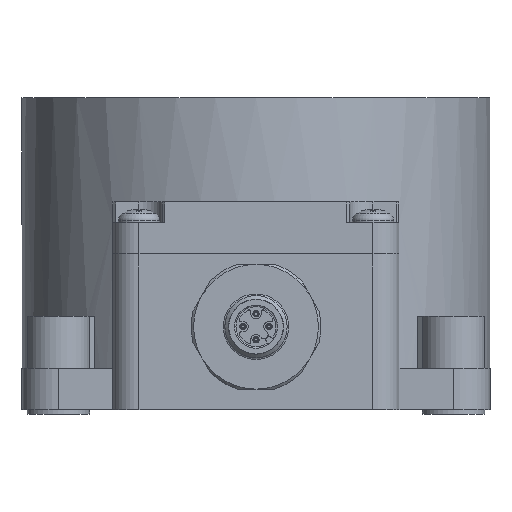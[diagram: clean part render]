
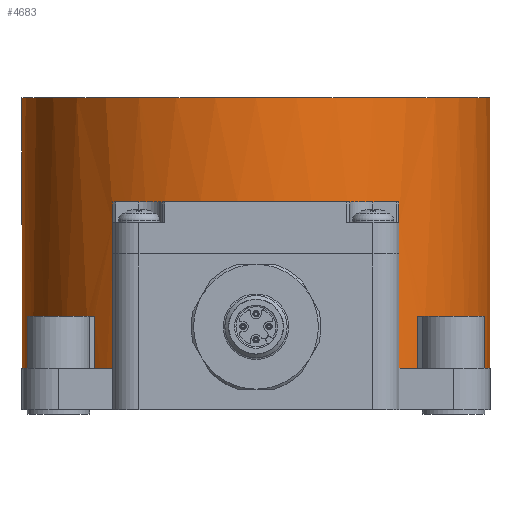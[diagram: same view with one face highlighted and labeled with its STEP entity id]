
A CAD part, front view. The second image highlights one B-rep face of the part: STEP entity #4683.
In plain terms, the highlighted cylindrical face has radius 45 mm (diameter 90 mm), a full revolution.
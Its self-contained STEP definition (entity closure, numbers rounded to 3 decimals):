
#3056=CARTESIAN_POINT('',(45.0,0.,52.0));
#3057=VERTEX_POINT('',#3056);
#3058=CARTESIAN_POINT('',(0.0,0.0,52.0));
#3059=DIRECTION('',(0.0,0.0,-1.0));
#3060=DIRECTION('',(-1.0,0.0,0.0));
#3061=AXIS2_PLACEMENT_3D('',#3058,#3059,#3060);
#3062=CIRCLE('',#3061,45.0);
#3063=EDGE_CURVE('',#3057,#3057,#3062,.T.);
#3277=CARTESIAN_POINT('',(45.0,0.,0.0));
#3278=VERTEX_POINT('',#3277);
#3390=CARTESIAN_POINT('',(-45.,0.,0.0));
#3391=VERTEX_POINT('',#3390);
#3447=CARTESIAN_POINT('',(0.,45.,0.0));
#3448=VERTEX_POINT('',#3447);
#3504=CARTESIAN_POINT('',(-27.5,-35.62,22.0));
#3505=VERTEX_POINT('',#3504);
#3512=CARTESIAN_POINT('',(-27.5,-35.62,0.0));
#3513=VERTEX_POINT('',#3512);
#3514=CARTESIAN_POINT('',(-27.5,-35.62,0.0));
#3515=DIRECTION('',(0.0,0.0,1.0));
#3516=VECTOR('',#3515,22.0);
#3517=LINE('',#3514,#3516);
#3518=EDGE_CURVE('',#3513,#3505,#3517,.T.);
#3713=CARTESIAN_POINT('',(27.5,-35.62,0.0));
#3714=VERTEX_POINT('',#3713);
#3721=CARTESIAN_POINT('',(27.5,-35.62,22.0));
#3722=VERTEX_POINT('',#3721);
#3723=CARTESIAN_POINT('',(27.5,-35.62,22.0));
#3724=DIRECTION('',(0.0,0.0,-1.0));
#3725=VECTOR('',#3724,22.0);
#3726=LINE('',#3723,#3725);
#3727=EDGE_CURVE('',#3722,#3714,#3726,.T.);
#3745=CARTESIAN_POINT('',(32.519,-31.105,0.0));
#3746=VERTEX_POINT('',#3745);
#3764=CARTESIAN_POINT('',(31.105,-32.519,0.0));
#3765=VERTEX_POINT('',#3764);
#3772=CARTESIAN_POINT('',(0.0,0.0,0.0));
#3773=DIRECTION('',(0.0,0.0,-1.0));
#3774=DIRECTION('',(-1.0,0.0,0.0));
#3775=AXIS2_PLACEMENT_3D('',#3772,#3773,#3774);
#3776=CIRCLE('',#3775,45.0);
#3777=EDGE_CURVE('',#3765,#3714,#3776,.T.);
#3783=CARTESIAN_POINT('',(0.0,0.0,0.0));
#3784=DIRECTION('',(0.0,0.0,-1.0));
#3785=DIRECTION('',(-1.0,0.0,0.0));
#3786=AXIS2_PLACEMENT_3D('',#3783,#3784,#3785);
#3787=CIRCLE('',#3786,45.0);
#3788=EDGE_CURVE('',#3278,#3746,#3787,.T.);
#3798=CARTESIAN_POINT('',(-32.519,31.105,0.0));
#3799=VERTEX_POINT('',#3798);
#3817=CARTESIAN_POINT('',(-31.105,32.519,0.0));
#3818=VERTEX_POINT('',#3817);
#3825=CARTESIAN_POINT('',(0.0,0.0,0.0));
#3826=DIRECTION('',(0.0,0.0,-1.0));
#3827=DIRECTION('',(-1.0,0.0,0.0));
#3828=AXIS2_PLACEMENT_3D('',#3825,#3826,#3827);
#3829=CIRCLE('',#3828,45.0);
#3830=EDGE_CURVE('',#3818,#3448,#3829,.T.);
#3835=CARTESIAN_POINT('',(0.0,0.0,0.0));
#3836=DIRECTION('',(0.0,0.0,-1.0));
#3837=DIRECTION('',(-1.0,0.0,0.0));
#3838=AXIS2_PLACEMENT_3D('',#3835,#3836,#3837);
#3839=CIRCLE('',#3838,45.0);
#3840=EDGE_CURVE('',#3391,#3799,#3839,.T.);
#3850=CARTESIAN_POINT('',(31.105,32.519,0.0));
#3851=VERTEX_POINT('',#3850);
#3869=CARTESIAN_POINT('',(32.519,31.105,0.0));
#3870=VERTEX_POINT('',#3869);
#3877=CARTESIAN_POINT('',(0.0,0.0,0.0));
#3878=DIRECTION('',(0.0,0.0,-1.0));
#3879=DIRECTION('',(-1.0,0.0,0.0));
#3880=AXIS2_PLACEMENT_3D('',#3877,#3878,#3879);
#3881=CIRCLE('',#3880,45.0);
#3882=EDGE_CURVE('',#3870,#3278,#3881,.T.);
#3887=CARTESIAN_POINT('',(0.0,0.0,0.0));
#3888=DIRECTION('',(0.0,0.0,-1.0));
#3889=DIRECTION('',(-1.0,0.0,0.0));
#3890=AXIS2_PLACEMENT_3D('',#3887,#3888,#3889);
#3891=CIRCLE('',#3890,45.0);
#3892=EDGE_CURVE('',#3448,#3851,#3891,.T.);
#3902=CARTESIAN_POINT('',(-31.105,-32.519,0.0));
#3903=VERTEX_POINT('',#3902);
#3921=CARTESIAN_POINT('',(-32.519,-31.105,0.0));
#3922=VERTEX_POINT('',#3921);
#3929=CARTESIAN_POINT('',(0.0,0.0,0.0));
#3930=DIRECTION('',(0.0,0.0,-1.0));
#3931=DIRECTION('',(-1.0,0.0,0.0));
#3932=AXIS2_PLACEMENT_3D('',#3929,#3930,#3931);
#3933=CIRCLE('',#3932,45.0);
#3934=EDGE_CURVE('',#3922,#3391,#3933,.T.);
#3940=CARTESIAN_POINT('',(0.0,0.0,0.0));
#3941=DIRECTION('',(0.0,0.0,-1.0));
#3942=DIRECTION('',(-1.0,0.0,0.0));
#3943=AXIS2_PLACEMENT_3D('',#3940,#3941,#3942);
#3944=CIRCLE('',#3943,45.0);
#3945=EDGE_CURVE('',#3513,#3903,#3944,.T.);
#3955=CARTESIAN_POINT('',(31.105,-32.519,10.0));
#3956=VERTEX_POINT('',#3955);
#3957=CARTESIAN_POINT('',(32.519,-31.105,10.0));
#3958=VERTEX_POINT('',#3957);
#3959=CARTESIAN_POINT('',(0.0,0.0,10.0));
#3960=DIRECTION('',(0.0,0.0,1.0));
#3961=DIRECTION('',(-1.0,0.0,0.0));
#3962=AXIS2_PLACEMENT_3D('',#3959,#3960,#3961);
#3963=CIRCLE('',#3962,45.0);
#3964=EDGE_CURVE('',#3956,#3958,#3963,.T.);
#4009=CARTESIAN_POINT('',(31.105,-32.519,0.0));
#4010=DIRECTION('',(0.0,0.0,1.0));
#4011=VECTOR('',#4010,10.0);
#4012=LINE('',#4009,#4011);
#4013=EDGE_CURVE('',#3765,#3956,#4012,.T.);
#4050=CARTESIAN_POINT('',(32.519,-31.105,10.0));
#4051=DIRECTION('',(0.0,0.0,-1.0));
#4052=VECTOR('',#4051,10.0);
#4053=LINE('',#4050,#4052);
#4054=EDGE_CURVE('',#3958,#3746,#4053,.T.);
#4075=CARTESIAN_POINT('',(-32.519,31.105,10.0));
#4076=VERTEX_POINT('',#4075);
#4083=CARTESIAN_POINT('',(-31.105,32.519,10.0));
#4084=VERTEX_POINT('',#4083);
#4085=CARTESIAN_POINT('',(0.0,0.0,10.0));
#4086=DIRECTION('',(0.0,0.0,1.0));
#4087=DIRECTION('',(-1.0,0.0,0.0));
#4088=AXIS2_PLACEMENT_3D('',#4085,#4086,#4087);
#4089=CIRCLE('',#4088,45.0);
#4090=EDGE_CURVE('',#4084,#4076,#4089,.T.);
#4125=CARTESIAN_POINT('',(-32.519,31.105,10.0));
#4126=DIRECTION('',(0.0,0.0,-1.0));
#4127=VECTOR('',#4126,10.0);
#4128=LINE('',#4125,#4127);
#4129=EDGE_CURVE('',#4076,#3799,#4128,.T.);
#4140=CARTESIAN_POINT('',(-31.105,32.519,0.0));
#4141=DIRECTION('',(0.0,0.0,1.0));
#4142=VECTOR('',#4141,10.0);
#4143=LINE('',#4140,#4142);
#4144=EDGE_CURVE('',#3818,#4084,#4143,.T.);
#4184=CARTESIAN_POINT('',(31.105,32.519,10.0));
#4185=VERTEX_POINT('',#4184);
#4192=CARTESIAN_POINT('',(32.519,31.105,10.0));
#4193=VERTEX_POINT('',#4192);
#4194=CARTESIAN_POINT('',(0.0,0.0,10.0));
#4195=DIRECTION('',(0.0,0.0,1.0));
#4196=DIRECTION('',(-1.0,0.0,0.0));
#4197=AXIS2_PLACEMENT_3D('',#4194,#4195,#4196);
#4198=CIRCLE('',#4197,45.0);
#4199=EDGE_CURVE('',#4193,#4185,#4198,.T.);
#4234=CARTESIAN_POINT('',(31.105,32.519,10.0));
#4235=DIRECTION('',(0.0,0.0,-1.0));
#4236=VECTOR('',#4235,10.0);
#4237=LINE('',#4234,#4236);
#4238=EDGE_CURVE('',#4185,#3851,#4237,.T.);
#4249=CARTESIAN_POINT('',(32.519,31.105,0.0));
#4250=DIRECTION('',(0.0,0.0,1.0));
#4251=VECTOR('',#4250,10.0);
#4252=LINE('',#4249,#4251);
#4253=EDGE_CURVE('',#3870,#4193,#4252,.T.);
#4282=CARTESIAN_POINT('',(-32.519,-31.105,10.0));
#4283=VERTEX_POINT('',#4282);
#4284=CARTESIAN_POINT('',(-31.105,-32.519,10.0));
#4285=VERTEX_POINT('',#4284);
#4286=CARTESIAN_POINT('',(0.0,0.0,10.0));
#4287=DIRECTION('',(0.0,0.0,1.0));
#4288=DIRECTION('',(-1.0,0.0,0.0));
#4289=AXIS2_PLACEMENT_3D('',#4286,#4287,#4288);
#4290=CIRCLE('',#4289,45.0);
#4291=EDGE_CURVE('',#4283,#4285,#4290,.T.);
#4336=CARTESIAN_POINT('',(-32.519,-31.105,0.0));
#4337=DIRECTION('',(0.0,0.0,1.0));
#4338=VECTOR('',#4337,10.0);
#4339=LINE('',#4336,#4338);
#4340=EDGE_CURVE('',#3922,#4283,#4339,.T.);
#4377=CARTESIAN_POINT('',(-31.105,-32.519,10.0));
#4378=DIRECTION('',(0.0,0.0,-1.0));
#4379=VECTOR('',#4378,10.0);
#4380=LINE('',#4377,#4379);
#4381=EDGE_CURVE('',#4285,#3903,#4380,.T.);
#4594=CARTESIAN_POINT('',(0.0,0.0,0.0));
#4595=DIRECTION('',(0.0,0.0,1.0));
#4596=DIRECTION('',(-1.0,0.0,0.0));
#4597=AXIS2_PLACEMENT_3D('',#4594,#4595,#4596);
#4598=CYLINDRICAL_SURFACE('',#4597,45.0);
#4599=ORIENTED_EDGE('',*,*,#3063,.T.);
#4600=EDGE_LOOP('',(#4599));
#4601=FACE_OUTER_BOUND('',#4600,.T.);
#4602=CARTESIAN_POINT('',(-27.5,-35.62,28.0));
#4603=VERTEX_POINT('',#4602);
#4604=CARTESIAN_POINT('',(-27.5,-35.62,22.0));
#4605=DIRECTION('',(0.0,0.0,1.0));
#4606=VECTOR('',#4605,6.0);
#4607=LINE('',#4604,#4606);
#4608=EDGE_CURVE('',#3505,#4603,#4607,.T.);
#4609=ORIENTED_EDGE('',*,*,#4608,.T.);
#4610=CARTESIAN_POINT('',(-17.541,-41.441,28.0));
#4611=VERTEX_POINT('',#4610);
#4612=CARTESIAN_POINT('',(0.0,0.0,28.0));
#4613=DIRECTION('',(0.0,0.0,1.0));
#4614=DIRECTION('',(-1.0,0.0,0.0));
#4615=AXIS2_PLACEMENT_3D('',#4612,#4613,#4614);
#4616=CIRCLE('',#4615,45.0);
#4617=EDGE_CURVE('',#4603,#4611,#4616,.T.);
#4618=ORIENTED_EDGE('',*,*,#4617,.T.);
#4619=CARTESIAN_POINT('',(-17.541,-41.441,32.));
#4620=VERTEX_POINT('',#4619);
#4621=CARTESIAN_POINT('',(-17.541,-41.441,28.0));
#4622=DIRECTION('',(0.0,0.0,1.0));
#4623=VECTOR('',#4622,4.);
#4624=LINE('',#4621,#4623);
#4625=EDGE_CURVE('',#4611,#4620,#4624,.T.);
#4626=ORIENTED_EDGE('',*,*,#4625,.T.);
#4627=CARTESIAN_POINT('',(17.541,-41.441,32.));
#4628=VERTEX_POINT('',#4627);
#4629=CARTESIAN_POINT('',(0.0,0.0,32.));
#4630=DIRECTION('',(0.0,0.0,1.0));
#4631=DIRECTION('',(-1.0,0.0,0.0));
#4632=AXIS2_PLACEMENT_3D('',#4629,#4630,#4631);
#4633=CIRCLE('',#4632,45.0);
#4634=EDGE_CURVE('',#4620,#4628,#4633,.T.);
#4635=ORIENTED_EDGE('',*,*,#4634,.T.);
#4636=CARTESIAN_POINT('',(17.541,-41.441,28.0));
#4637=VERTEX_POINT('',#4636);
#4638=CARTESIAN_POINT('',(17.541,-41.441,32.));
#4639=DIRECTION('',(0.0,0.0,-1.0));
#4640=VECTOR('',#4639,4.);
#4641=LINE('',#4638,#4640);
#4642=EDGE_CURVE('',#4628,#4637,#4641,.T.);
#4643=ORIENTED_EDGE('',*,*,#4642,.T.);
#4644=CARTESIAN_POINT('',(27.5,-35.62,28.0));
#4645=VERTEX_POINT('',#4644);
#4646=CARTESIAN_POINT('',(0.0,0.0,28.0));
#4647=DIRECTION('',(0.0,0.0,1.0));
#4648=DIRECTION('',(-1.0,0.0,0.0));
#4649=AXIS2_PLACEMENT_3D('',#4646,#4647,#4648);
#4650=CIRCLE('',#4649,45.0);
#4651=EDGE_CURVE('',#4637,#4645,#4650,.T.);
#4652=ORIENTED_EDGE('',*,*,#4651,.T.);
#4653=CARTESIAN_POINT('',(27.5,-35.62,28.0));
#4654=DIRECTION('',(0.0,0.0,-1.0));
#4655=VECTOR('',#4654,6.0);
#4656=LINE('',#4653,#4655);
#4657=EDGE_CURVE('',#4645,#3722,#4656,.T.);
#4658=ORIENTED_EDGE('',*,*,#4657,.T.);
#4659=ORIENTED_EDGE('',*,*,#3727,.T.);
#4660=ORIENTED_EDGE('',*,*,#3777,.F.);
#4661=ORIENTED_EDGE('',*,*,#4013,.T.);
#4662=ORIENTED_EDGE('',*,*,#3964,.T.);
#4663=ORIENTED_EDGE('',*,*,#4054,.T.);
#4664=ORIENTED_EDGE('',*,*,#3788,.F.);
#4665=ORIENTED_EDGE('',*,*,#3882,.F.);
#4666=ORIENTED_EDGE('',*,*,#4253,.T.);
#4667=ORIENTED_EDGE('',*,*,#4199,.T.);
#4668=ORIENTED_EDGE('',*,*,#4238,.T.);
#4669=ORIENTED_EDGE('',*,*,#3892,.F.);
#4670=ORIENTED_EDGE('',*,*,#3830,.F.);
#4671=ORIENTED_EDGE('',*,*,#4144,.T.);
#4672=ORIENTED_EDGE('',*,*,#4090,.T.);
#4673=ORIENTED_EDGE('',*,*,#4129,.T.);
#4674=ORIENTED_EDGE('',*,*,#3840,.F.);
#4675=ORIENTED_EDGE('',*,*,#3934,.F.);
#4676=ORIENTED_EDGE('',*,*,#4340,.T.);
#4677=ORIENTED_EDGE('',*,*,#4291,.T.);
#4678=ORIENTED_EDGE('',*,*,#4381,.T.);
#4679=ORIENTED_EDGE('',*,*,#3945,.F.);
#4680=ORIENTED_EDGE('',*,*,#3518,.T.);
#4681=EDGE_LOOP('',(#4609,#4618,#4626,#4635,#4643,#4652,#4658,#4659,#4660,#4661,#4662,#4663,#4664,#4665,#4666,#4667,#4668,#4669,#4670,#4671,#4672,#4673,#4674,#4675,#4676,#4677,#4678,#4679,#4680));
#4682=FACE_BOUND('',#4681,.T.);
#4683=ADVANCED_FACE('',(#4601,#4682),#4598,.T.);
